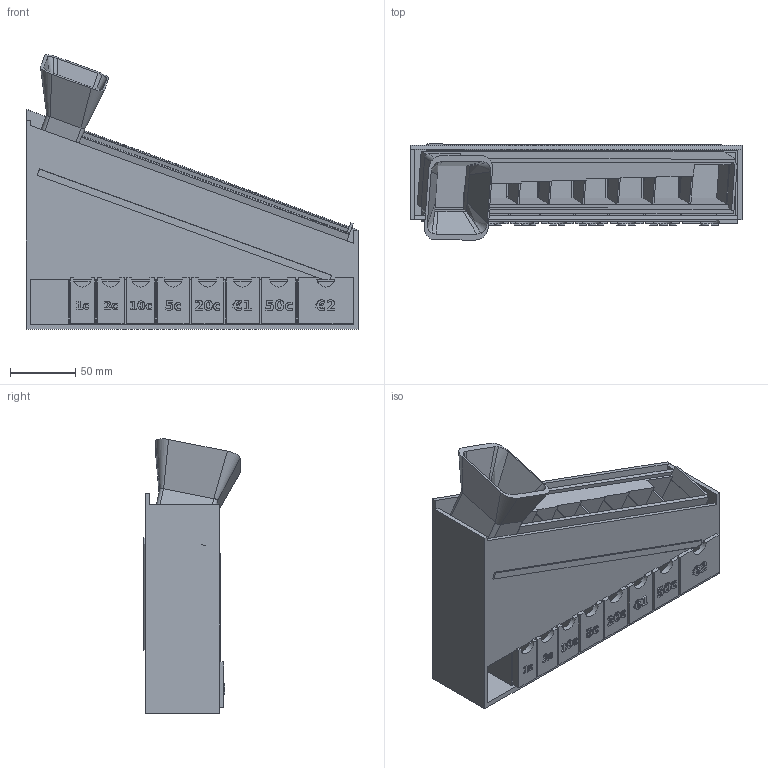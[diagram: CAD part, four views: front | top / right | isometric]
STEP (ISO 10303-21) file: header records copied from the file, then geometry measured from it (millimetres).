
FILE_DESCRIPTION(('Open CASCADE Model'),'2;1');
FILE_NAME('muntsorteerder','2026-10-20T15:47:45',('Author'),( 'Open CASCADE'),'Open CASCADE STEP processor 8.0','build123d', 'Unknown');
FILE_SCHEMA(('AUTOMOTIVE_DESIGN { 1 0 10303 214 1 1 1 1 }'));
Length unit declared in the file: millimetre
Products named in the file (12): muntsorteerder; COMPOUND
Assembly tree (11 placements, depth 2):
  muntsorteerder
    COMPOUND
    COMPOUND
    COMPOUND
    COMPOUND
    COMPOUND
    COMPOUND
    COMPOUND
    COMPOUND
    COMPOUND
    COMPOUND
    COMPOUND
Bounding box: 254.18 x 73.6 x 210.19 mm (x, y, z)
Volume: 575462.4 mm3; surface area: 402328.9 mm2
Topology: 11 solids, 11 shells, 536 faces, 1494 edges, 986 vertices
Faces by surface type: plane 464, extrusion 40, bspline 20, cylinder 12
Entity records: 37609 total; most frequent: CARTESIAN_POINT 8875, DIRECTION 4713, VECTOR 3637, LINE 3597, ORIENTED_EDGE 2988, PCURVE 2988, DEFINITIONAL_REPRESENTATION 2988, EDGE_CURVE 1494
